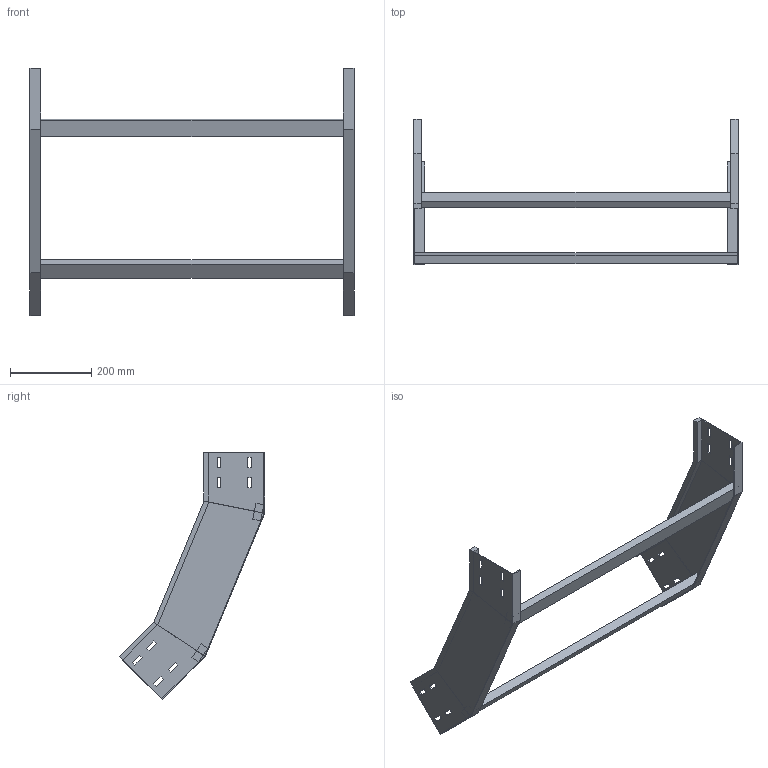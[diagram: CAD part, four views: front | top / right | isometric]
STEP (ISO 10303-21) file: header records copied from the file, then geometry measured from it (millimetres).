
FILE_DESCRIPTION (( 'STEP AP214' ), '1' );
FILE_NAME ('31J5F800.step', '2025-02-21T16:26:34', ( '' ), ( '' ), 'SwSTEP 2.0', 'SolidWorks 2023', '' );
FILE_SCHEMA (( 'AUTOMOTIVE_DESIGN' ));
Length unit declared in the file: millimetre
Products named in the file (3): 31J5F800; TRAVERSINO_800; LONGH.SALITA_45°_H150_R500
Assembly tree (4 placements, depth 2):
  31J5F800
    LONGH.SALITA_45°_H150_R500  x2
    TRAVERSINO_800  x2
Bounding box: 800 x 358.7 x 609.91 mm (x, y, z)
Volume: 1942812 mm3; surface area: 676598.1 mm2
Topology: 4 solids, 4 shells, 128 faces, 328 edges, 208 vertices
Faces by surface type: plane 128
Entity records: 2016 total; most frequent: CARTESIAN_POINT 339, ORIENTED_EDGE 328, DIRECTION 306, EDGE_CURVE 164, VECTOR 164, LINE 164, VERTEX_POINT 104, EDGE_LOOP 80
